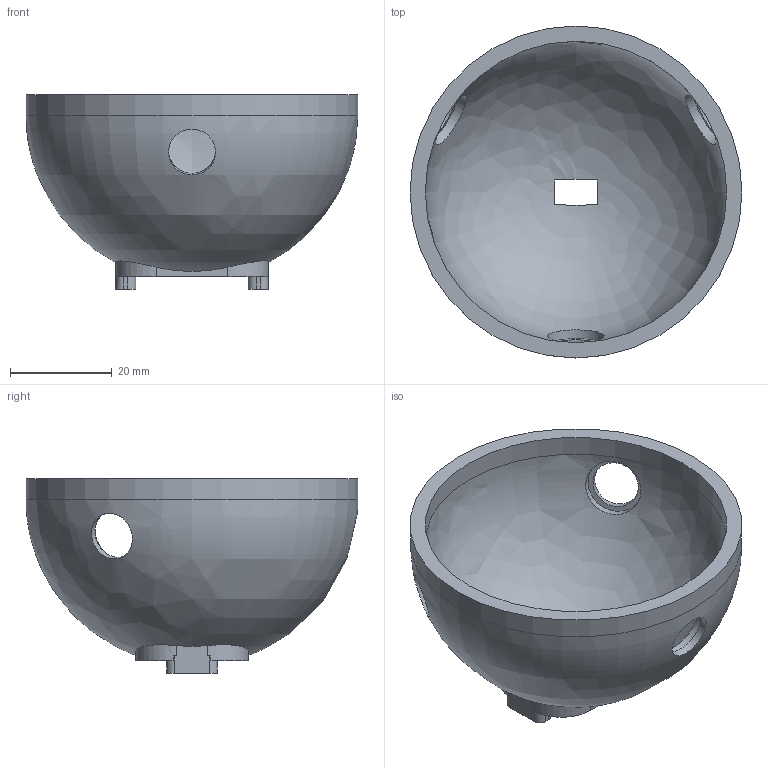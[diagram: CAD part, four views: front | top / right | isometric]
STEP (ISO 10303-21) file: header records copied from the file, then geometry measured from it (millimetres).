
FILE_DESCRIPTION(('Open CASCADE Model'),'2;1');
FILE_NAME('Open CASCADE Shape Model','2026-05-31T19:43:52',('Author'),( 'Open CASCADE'),'Open CASCADE STEP processor 7.6','Open CASCADE 7.6' ,'Unknown');
FILE_SCHEMA(('AP242_MANAGED_MODEL_BASED_3D_ENGINEERING_MIM_LF. {1 0 10303 442 1 1 4 }'));
Length unit declared in the file: millimetre
Products named in the file (1): Open CASCADE STEP translator 7.6 12
Bounding box: 65.15 x 65.15 x 38.17 mm (x, y, z)
Volume: 19953.2 mm3; surface area: 14604 mm2
Topology: 1 solids, 1 shells, 73 faces, 200 edges, 132 vertices
Faces by surface type: plane 35, cylinder 28, bspline 4, revolution 2, sphere 2, cone 2
Full cylindrical faces by diameter (mm): 2.05 x2, 9.2 x3, 11.2 x3, 59.15 x1, 65.15 x1
Entity records: 8250 total; most frequent: CARTESIAN_POINT 4312, DIRECTION 726, ORIENTED_EDGE 396, PCURVE 396, DEFINITIONAL_REPRESENTATION 396, LINE 390, VECTOR 390, EDGE_CURVE 198
